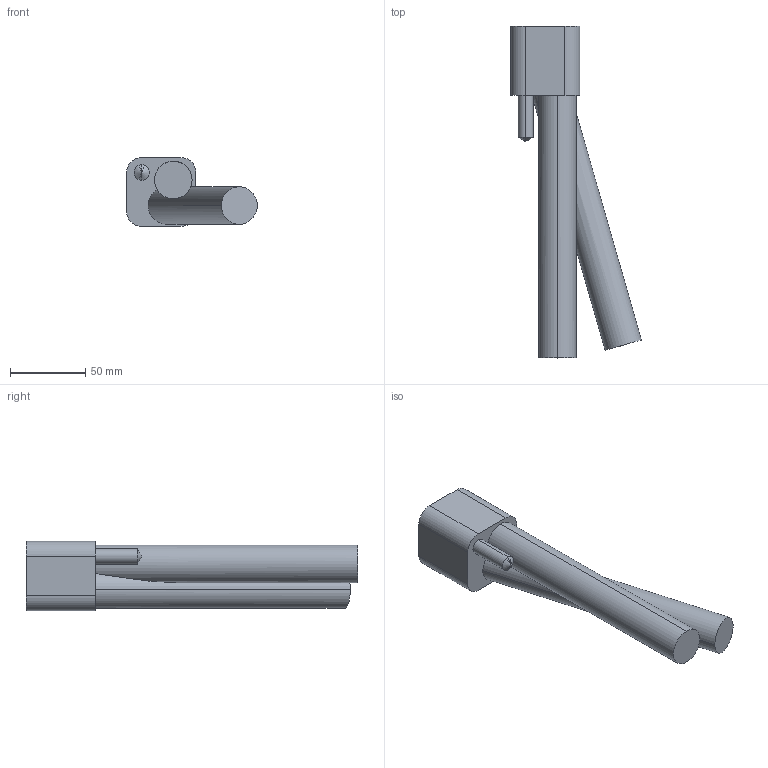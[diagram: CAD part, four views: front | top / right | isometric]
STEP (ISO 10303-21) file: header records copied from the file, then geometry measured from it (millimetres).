
FILE_DESCRIPTION (( 'STEP AP203' ), '1' );
FILE_NAME ('DR46100L-16-S.STEP', '2016-11-08T07:47:10', ( '' ), ( '' ), 'SwSTEP 2.0', 'SolidWorks 2015', '' );
FILE_SCHEMA (( 'CONFIG_CONTROL_DESIGN' ));
Length unit declared in the file: millimetre
Products named in the file (1): DR46100L-16-S
Bounding box: 86.94 x 221.03 x 46.02 mm (x, y, z)
Volume: 261672.9 mm3; surface area: 37448.6 mm2
Topology: 1 solids, 1 shells, 20 faces, 49 edges, 31 vertices
Faces by surface type: cylinder 10, plane 8, cone 2
Entity records: 728 total; most frequent: CARTESIAN_POINT 182, DIRECTION 102, ORIENTED_EDGE 94, EDGE_CURVE 47, AXIS2_PLACEMENT_3D 39, VERTEX_POINT 31, LINE 24, VECTOR 24
